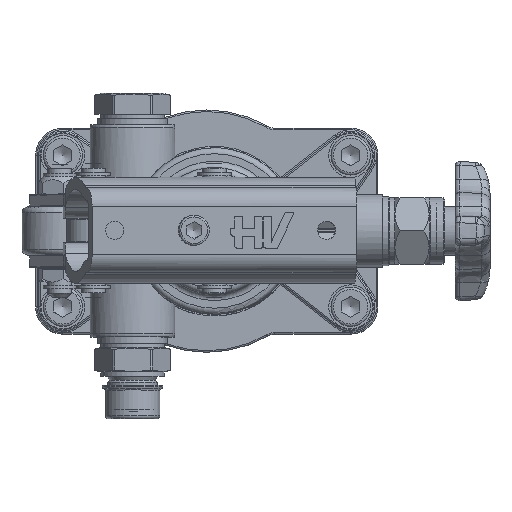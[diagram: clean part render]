
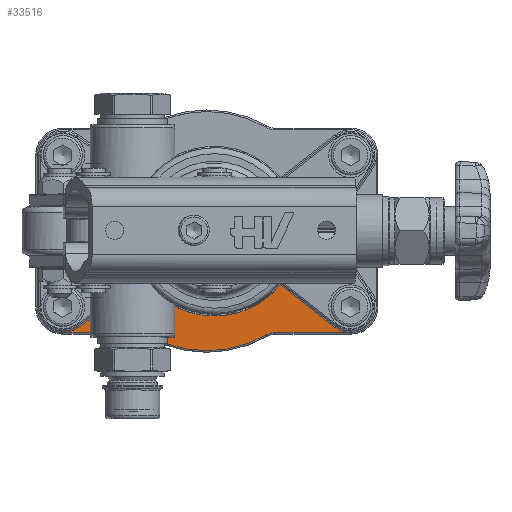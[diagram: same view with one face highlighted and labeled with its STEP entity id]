
A CAD part, top view. The second image highlights one B-rep face of the part: STEP entity #33516.
In plain terms, the highlighted planar face has unit normal (0, 0, 1).
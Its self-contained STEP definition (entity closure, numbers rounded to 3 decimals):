
#2796=PLANE('',#36559);
#4554=FACE_OUTER_BOUND('',#6648,.T.);
#6648=EDGE_LOOP('',(#28833,#28834,#28835,#28836,#28837,#28838,#28839,#28840,
#28841,#28842,#28843));
#8997=LINE('',#66565,#11289);
#8998=LINE('',#66569,#11290);
#8999=LINE('',#66577,#11291);
#9000=LINE('',#66580,#11292);
#11289=VECTOR('',#44655,10.);
#11290=VECTOR('',#44658,10.);
#11291=VECTOR('',#44665,10.);
#11292=VECTOR('',#44668,10.);
#12675=CIRCLE('',#36475,28.);
#12710=CIRCLE('',#36532,5.5);
#12723=CIRCLE('',#36560,8.5);
#12724=CIRCLE('',#36561,5.5);
#12725=CIRCLE('',#36562,39.5);
#12726=CIRCLE('',#36563,5.5);
#12727=CIRCLE('',#36564,8.5);
#15599=VERTEX_POINT('',#66074);
#15600=VERTEX_POINT('',#66076);
#15637=VERTEX_POINT('',#66414);
#15660=VERTEX_POINT('',#66564);
#15661=VERTEX_POINT('',#66566);
#15662=VERTEX_POINT('',#66568);
#15663=VERTEX_POINT('',#66570);
#15664=VERTEX_POINT('',#66572);
#15665=VERTEX_POINT('',#66574);
#15666=VERTEX_POINT('',#66576);
#15667=VERTEX_POINT('',#66578);
#20005=EDGE_CURVE('',#15600,#15599,#12675,.T.);
#20068=EDGE_CURVE('',#15637,#15600,#12710,.T.);
#20107=EDGE_CURVE('',#15660,#15637,#8997,.T.);
#20108=EDGE_CURVE('',#15661,#15660,#12723,.T.);
#20109=EDGE_CURVE('',#15662,#15661,#8998,.T.);
#20110=EDGE_CURVE('',#15663,#15662,#12724,.T.);
#20111=EDGE_CURVE('',#15664,#15663,#12725,.T.);
#20112=EDGE_CURVE('',#15665,#15664,#12726,.T.);
#20113=EDGE_CURVE('',#15666,#15665,#8999,.T.);
#20114=EDGE_CURVE('',#15667,#15666,#12727,.T.);
#20115=EDGE_CURVE('',#15599,#15667,#9000,.T.);
#28833=ORIENTED_EDGE('',*,*,#20005,.F.);
#28834=ORIENTED_EDGE('',*,*,#20068,.F.);
#28835=ORIENTED_EDGE('',*,*,#20107,.F.);
#28836=ORIENTED_EDGE('',*,*,#20108,.F.);
#28837=ORIENTED_EDGE('',*,*,#20109,.F.);
#28838=ORIENTED_EDGE('',*,*,#20110,.F.);
#28839=ORIENTED_EDGE('',*,*,#20111,.F.);
#28840=ORIENTED_EDGE('',*,*,#20112,.F.);
#28841=ORIENTED_EDGE('',*,*,#20113,.F.);
#28842=ORIENTED_EDGE('',*,*,#20114,.F.);
#28843=ORIENTED_EDGE('',*,*,#20115,.F.);
#33516=ADVANCED_FACE('',(#4554),#2796,.T.);
#36475=AXIS2_PLACEMENT_3D('',#66078,#44450,#44451);
#36532=AXIS2_PLACEMENT_3D('',#66416,#44581,#44582);
#36559=AXIS2_PLACEMENT_3D('',#66563,#44653,#44654);
#36560=AXIS2_PLACEMENT_3D('',#66567,#44656,#44657);
#36561=AXIS2_PLACEMENT_3D('',#66571,#44659,#44660);
#36562=AXIS2_PLACEMENT_3D('',#66573,#44661,#44662);
#36563=AXIS2_PLACEMENT_3D('',#66575,#44663,#44664);
#36564=AXIS2_PLACEMENT_3D('',#66579,#44666,#44667);
#44450=DIRECTION('center_axis',(0.,0.,1.));
#44451=DIRECTION('ref_axis',(-0.004,-1.,0.));
#44581=DIRECTION('center_axis',(0.,0.,1.));
#44582=DIRECTION('ref_axis',(0.435,-0.9,0.));
#44653=DIRECTION('center_axis',(0.,0.,1.));
#44654=DIRECTION('ref_axis',(1.,0.,0.));
#44655=DIRECTION('',(0.806,0.592,0.));
#44656=DIRECTION('center_axis',(0.,0.,1.));
#44657=DIRECTION('ref_axis',(-0.451,-0.892,0.));
#44658=DIRECTION('',(-1.,0.,0.));
#44659=DIRECTION('center_axis',(0.,0.,1.));
#44660=DIRECTION('ref_axis',(0.258,0.966,0.));
#44661=DIRECTION('center_axis',(0.,0.,-1.));
#44662=DIRECTION('ref_axis',(0.,-1.,0.));
#44663=DIRECTION('center_axis',(0.,0.,1.));
#44664=DIRECTION('ref_axis',(-0.258,0.966,0.));
#44665=DIRECTION('',(-1.,0.,0.));
#44666=DIRECTION('center_axis',(0.,0.,1.));
#44667=DIRECTION('ref_axis',(0.686,-0.728,0.));
#44668=DIRECTION('',(0.788,-0.616,0.));
#66074=CARTESIAN_POINT('',(80.755,16.372,7.));
#66076=CARTESIAN_POINT('',(37.433,16.143,7.));
#66078=CARTESIAN_POINT('Origin',(59.,34.,7.));
#66414=CARTESIAN_POINT('',(28.48,12.774,7.));
#66416=CARTESIAN_POINT('Origin',(32.,17.,7.));
#66563=CARTESIAN_POINT('Origin',(56.5,34.,7.));
#66564=CARTESIAN_POINT('',(14.036,2.152,7.));
#66565=CARTESIAN_POINT('',(35.416,17.875,7.));
#66566=CARTESIAN_POINT('',(9.,0.5,7.));
#66567=CARTESIAN_POINT('Origin',(9.,9.,7.));
#66568=CARTESIAN_POINT('',(34.05,0.5,7.));
#66569=CARTESIAN_POINT('',(84.75,0.5,7.));
#66570=CARTESIAN_POINT('',(36.794,-0.233,7.));
#66571=CARTESIAN_POINT('Origin',(34.05,-5.,7.));
#66572=CARTESIAN_POINT('',(76.206,-0.233,7.));
#66573=CARTESIAN_POINT('Origin',(56.5,34.,7.));
#66574=CARTESIAN_POINT('',(78.95,0.5,7.));
#66575=CARTESIAN_POINT('Origin',(78.95,-5.,7.));
#66576=CARTESIAN_POINT('',(104.,0.5,7.));
#66577=CARTESIAN_POINT('',(84.75,0.5,7.));
#66578=CARTESIAN_POINT('',(98.767,2.301,7.));
#66579=CARTESIAN_POINT('Origin',(104.,9.,7.));
#66580=CARTESIAN_POINT('',(67.891,26.42,7.));
